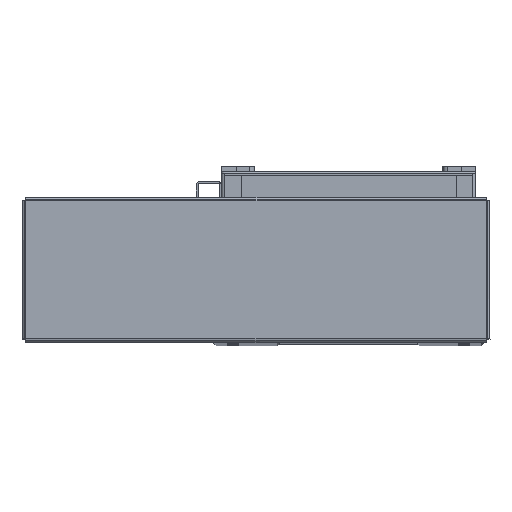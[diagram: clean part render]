
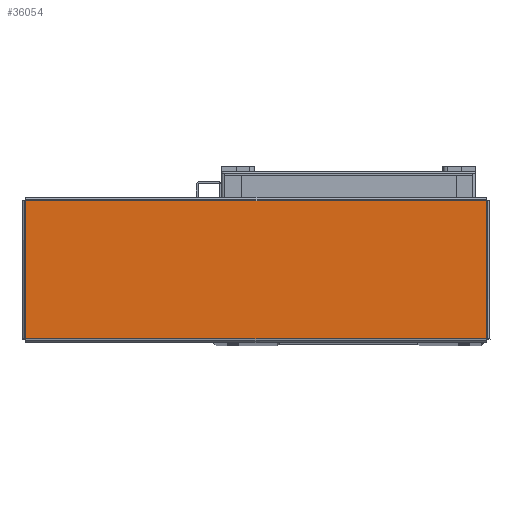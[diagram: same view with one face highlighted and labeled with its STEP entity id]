
A CAD part, top view. The second image highlights one B-rep face of the part: STEP entity #36054.
In plain terms, the highlighted planar face has unit normal (0, 0, 1) as drawn and (0, -1, 0) by its records, which use the part's own axes.
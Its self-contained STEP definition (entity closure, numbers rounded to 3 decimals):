
#6340 = CARTESIAN_POINT ( 'NONE',  ( -139.263, -1.5, 41.793 ) ) ;
#6414 = DIRECTION ( 'NONE',  ( 0., 0., -1. ) ) ;
#6428 = DIRECTION ( 'NONE',  ( 0., 0., 1. ) ) ;
#6440 = CARTESIAN_POINT ( 'NONE',  ( 139.293, -1.5, 41.763 ) ) ;
#6441 = DIRECTION ( 'NONE',  ( -1., 0., 0. ) ) ;
#6452 = CARTESIAN_POINT ( 'NONE',  ( 139.263, -1.5, -41.793 ) ) ;
#6455 = CARTESIAN_POINT ( 'NONE',  ( -139.293, -1.5, -41.763 ) ) ;
#6489 = DIRECTION ( 'NONE',  ( 1., 0., 0. ) ) ;
#16523 = VECTOR ( 'NONE', #6414, 1000. ) ;
#16525 = VECTOR ( 'NONE', #6428, 1000. ) ;
#16556 = LINE ( 'NONE', #6340, #16523 ) ;
#16563 = LINE ( 'NONE', #6452, #16525 ) ;
#16601 = VECTOR ( 'NONE', #6489, 1000. ) ;
#16607 = LINE ( 'NONE', #6440, #16639 ) ;
#16614 = LINE ( 'NONE', #6455, #16601 ) ;
#16639 = VECTOR ( 'NONE', #6441, 1000. ) ;
#20092 = EDGE_CURVE ( 'NONE', #26015, #26091, #16556, .T. ) ;
#20112 = EDGE_CURVE ( 'NONE', #26101, #26089, #16563, .T. ) ;
#20122 = EDGE_CURVE ( 'NONE', #26089, #26015, #16607, .T. ) ;
#20126 = EDGE_CURVE ( 'NONE', #26091, #26101, #16614, .T. ) ;
#23737 = FACE_OUTER_BOUND ( 'NONE', #32837, .T. ) ;
#26015 = VERTEX_POINT ( 'NONE', #28045 ) ;
#26089 = VERTEX_POINT ( 'NONE', #28114 ) ;
#26091 = VERTEX_POINT ( 'NONE', #28152 ) ;
#26101 = VERTEX_POINT ( 'NONE', #28111 ) ;
#26141 = ORIENTED_EDGE ( 'NONE', *, *, #20126, .T. ) ;
#26181 = ORIENTED_EDGE ( 'NONE', *, *, #20112, .T. ) ;
#26216 = ORIENTED_EDGE ( 'NONE', *, *, #20092, .T. ) ;
#26252 = ORIENTED_EDGE ( 'NONE', *, *, #20122, .T. ) ;
#28045 = CARTESIAN_POINT ( 'NONE',  ( -139.263, -1.5, 41.763 ) ) ;
#28111 = CARTESIAN_POINT ( 'NONE',  ( 139.263, -1.5, -41.763 ) ) ;
#28114 = CARTESIAN_POINT ( 'NONE',  ( 139.263, -1.5, 41.763 ) ) ;
#28152 = CARTESIAN_POINT ( 'NONE',  ( -139.263, -1.5, -41.763 ) ) ;
#32837 = EDGE_LOOP ( 'NONE', ( #26181, #26252, #26216, #26141 ) ) ;
#36054 = ADVANCED_FACE ( 'NONE', ( #23737 ), #38700, .F. ) ;
#38663 = DIRECTION ( 'NONE',  ( 0., 0., 1. ) ) ;
#38666 = DIRECTION ( 'NONE',  ( 0., 1., 0. ) ) ;
#38697 = CARTESIAN_POINT ( 'NONE',  ( 0., -1.5, 0. ) ) ;
#38700 = PLANE ( 'NONE',  #49535 ) ;
#49535 = AXIS2_PLACEMENT_3D ( 'NONE', #38697, #38666, #38663 ) ;
